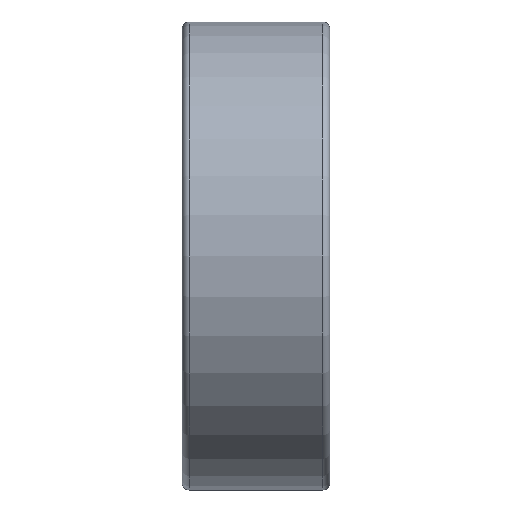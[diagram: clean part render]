
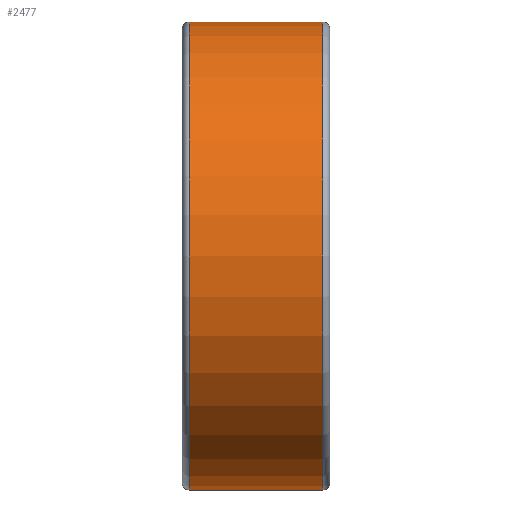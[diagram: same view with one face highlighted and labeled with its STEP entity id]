
A CAD part, front view. The second image highlights one B-rep face of the part: STEP entity #2477.
In plain terms, the highlighted cylindrical face has radius 9.5 mm (diameter 19 mm), a partial arc.
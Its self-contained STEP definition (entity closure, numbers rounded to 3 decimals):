
#789=CARTESIAN_POINT('',(2.7,0.,0.));
#790=DIRECTION('',(-1.,0.,0.));
#791=DIRECTION('',(0.,0.,-1.));
#792=AXIS2_PLACEMENT_3D('',#789,#790,#791);
#1378=DIRECTION('',(-1.,0.,0.));
#1379=VECTOR('',#1378,5.4);
#1380=CARTESIAN_POINT('',(2.7,0.,9.5));
#1381=LINE('',#1380,#1379);
#1382=DIRECTION('',(-1.,0.,0.));
#1383=VECTOR('',#1382,5.4);
#1384=CARTESIAN_POINT('',(2.7,0.,-9.5));
#1385=LINE('',#1384,#1383);
#1391=CARTESIAN_POINT('',(-2.7,0.,0.));
#1392=DIRECTION('',(1.,0.,0.));
#1393=DIRECTION('',(0.,0.,1.));
#1394=AXIS2_PLACEMENT_3D('',#1391,#1392,#1393);
#1546=CARTESIAN_POINT('',(2.7,0.,9.5));
#1547=VERTEX_POINT('',#1546);
#1548=CARTESIAN_POINT('',(2.7,0.,-9.5));
#1549=VERTEX_POINT('',#1548);
#1550=CARTESIAN_POINT('',(-2.7,0.,-9.5));
#1551=VERTEX_POINT('',#1550);
#1552=CARTESIAN_POINT('',(-2.7,0.,9.5));
#1553=VERTEX_POINT('',#1552);
#2465=CARTESIAN_POINT('',(0.,0.,0.));
#2466=DIRECTION('',(-1.,0.,0.));
#2467=DIRECTION('',(0.,0.,1.));
#2468=AXIS2_PLACEMENT_3D('',#2465,#2466,#2467);
#2469=CYLINDRICAL_SURFACE('',#2468,9.5);
#2470=ORIENTED_EDGE('',*,*,#2460,.T.);
#2472=ORIENTED_EDGE('',*,*,#2471,.F.);
#2473=ORIENTED_EDGE('',*,*,#2457,.F.);
#2474=ORIENTED_EDGE('',*,*,#1601,.F.);
#2475=EDGE_LOOP('',(#2470,#2472,#2473,#2474));
#2476=FACE_OUTER_BOUND('',#2475,.F.);
#2477=ADVANCED_FACE('',(#2476),#2469,.T.);
#793=CIRCLE('',#792,9.5);
#1395=CIRCLE('',#1394,9.5);
#1601=EDGE_CURVE('',#1549,#1547,#793,.T.);
#2457=EDGE_CURVE('',#1547,#1553,#1381,.T.);
#2460=EDGE_CURVE('',#1549,#1551,#1385,.T.);
#2471=EDGE_CURVE('',#1553,#1551,#1395,.T.);
